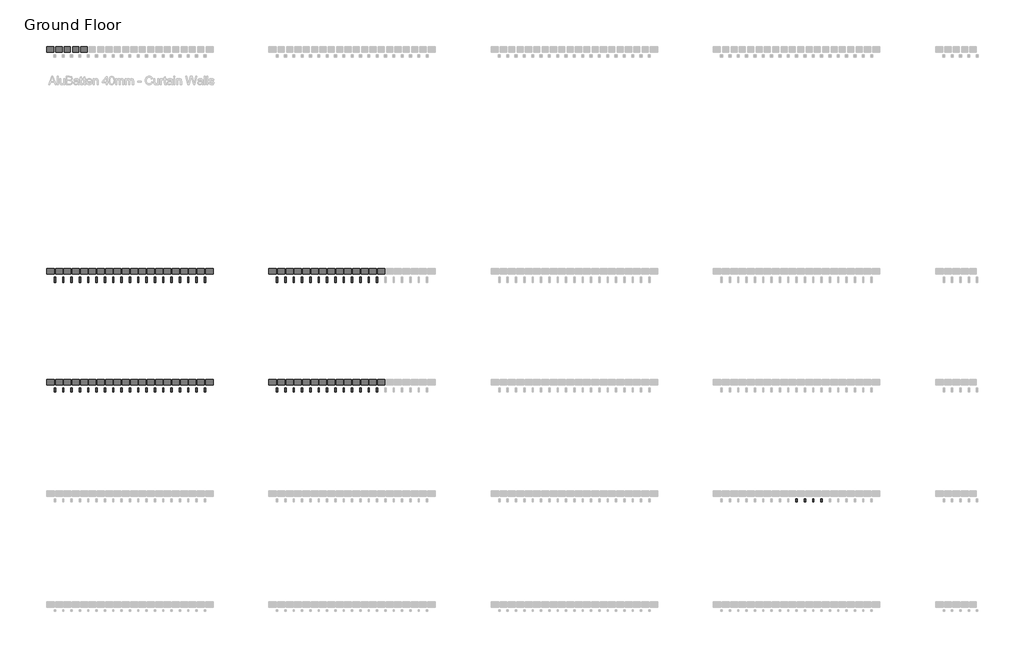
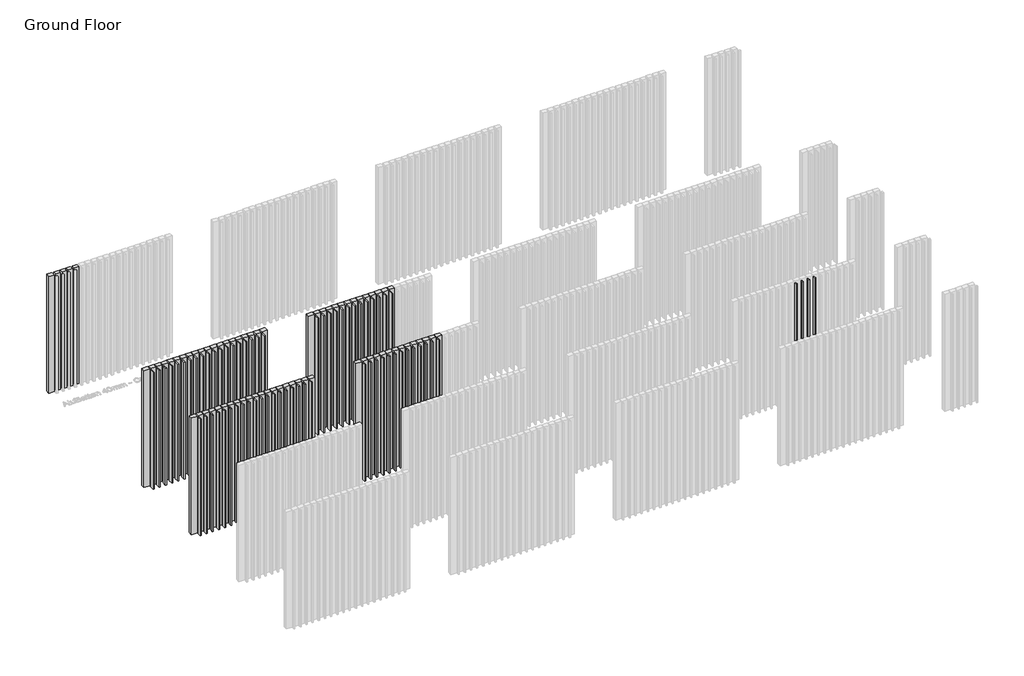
# One storey, part 3 of 350: 73 plates, 68 members.
"""IFC4 building model written with IfcOpenShell, lengths in millimetres."""

from ifc_helpers import new_model, si_unit, origin, place, context, project, spatial, transform, mapped, element, save
from components import rectangular_mullion_5535ef50, rectangular_mullion_b3f0cc74, rectangular_mullion_e8802490, empty_system_panel_empty_db8e642d, empty_system_panel_empty_1b6afc67, empty_system_panel_empty_4d48d162, empty_system_panel_empty_b664eb17, empty_system_panel_empty_6da6c4cd

model = new_model("IFC4")

# Units and contexts
model_context = context("Model", 3, world=origin())
ifc_project = project(units=[si_unit("LENGTHUNIT", "METRE", prefix="MILLI")], contexts=[model_context])

# Site, building, storey
site = spatial("IfcSite", under=ifc_project)
building = spatial("IfcBuilding", under=site)
storey = spatial("IfcBuildingStorey", under=building, Name="Ground Floor", Elevation=0.0)

# Members
placement = place(None, origin())
rectangular_mullion_shape = rectangular_mullion_5535ef50(model_context)
element("IfcMember", 1, ObjectType="Rectangular Mullion : Batten_Aluminium_Modinex_AluBatten_25x50_SpottedGum", at=placement, inside=storey, context=model_context, shape_type="MappedRepresentation", body=[
    mapped(rectangular_mullion_shape, transform((15416.4361642, 6968.2978302, 0.0), x_axis=(1.0, 0.0, 0.0), y_axis=(0.0, -1.0, 0.0), z_axis=(0.0, 0.0, -1.0))),
])
element("IfcMember", 2, ObjectType="Rectangular Mullion : Batten_Aluminium_Modinex_AluBatten_25x50_SpottedGum", at=placement, inside=storey, context=model_context, shape_type="MappedRepresentation", body=[
    mapped(rectangular_mullion_shape, transform((15566.4361642, 6968.2978302, 0.0), x_axis=(1.0, 0.0, 0.0), y_axis=(0.0, -1.0, 0.0), z_axis=(0.0, 0.0, -1.0))),
])
element("IfcMember", 3, ObjectType="Rectangular Mullion : Batten_Aluminium_Modinex_AluBatten_25x50_SpottedGum", at=placement, inside=storey, context=model_context, shape_type="MappedRepresentation", body=[
    mapped(rectangular_mullion_shape, transform((15716.4361642, 6968.2978302, 0.0), x_axis=(1.0, 0.0, 0.0), y_axis=(0.0, -1.0, 0.0), z_axis=(0.0, 0.0, -1.0))),
])
element("IfcMember", 4, ObjectType="Rectangular Mullion : Batten_Aluminium_Modinex_AluBatten_25x50_SpottedGum", at=placement, inside=storey, context=model_context, shape_type="MappedRepresentation", body=[
    mapped(rectangular_mullion_shape, transform((15866.4361642, 6968.2978302, 0.0), x_axis=(1.0, 0.0, 0.0), y_axis=(0.0, -1.0, 0.0), z_axis=(0.0, 0.0, -1.0))),
])
rectangular_mullion_2_shape = rectangular_mullion_b3f0cc74(model_context)
element("IfcMember", 5, ObjectType="Rectangular Mullion : Batten_Aluminium_Modinex_AluBatten_25x75_AfricanEbony", at=placement, inside=storey, context=model_context, shape_type="MappedRepresentation", body=[
    mapped(rectangular_mullion_2_shape, transform((2066.4361642, 8968.2978302, 0.0), x_axis=(1.0, 0.0, 0.0), y_axis=(0.0, -1.0, 0.0), z_axis=(0.0, 0.0, -1.0))),
])
element("IfcMember", 6, ObjectType="Rectangular Mullion : Batten_Aluminium_Modinex_AluBatten_25x75_AfricanEbony", at=placement, inside=storey, context=model_context, shape_type="MappedRepresentation", body=[
    mapped(rectangular_mullion_2_shape, transform((2216.4361642, 8968.2978302, 0.0), x_axis=(1.0, 0.0, 0.0), y_axis=(0.0, -1.0, 0.0), z_axis=(0.0, 0.0, -1.0))),
])
element("IfcMember", 7, ObjectType="Rectangular Mullion : Batten_Aluminium_Modinex_AluBatten_25x75_AfricanEbony", at=placement, inside=storey, context=model_context, shape_type="MappedRepresentation", body=[
    mapped(rectangular_mullion_2_shape, transform((2366.4361642, 8968.2978302, 0.0), x_axis=(1.0, 0.0, 0.0), y_axis=(0.0, -1.0, 0.0), z_axis=(0.0, 0.0, -1.0))),
])
element("IfcMember", 8, ObjectType="Rectangular Mullion : Batten_Aluminium_Modinex_AluBatten_25x75_AfricanEbony", at=placement, inside=storey, context=model_context, shape_type="MappedRepresentation", body=[
    mapped(rectangular_mullion_2_shape, transform((2516.4361642, 8968.2978302, 0.0), x_axis=(1.0, 0.0, 0.0), y_axis=(0.0, -1.0, 0.0), z_axis=(0.0, 0.0, -1.0))),
])
element("IfcMember", 9, ObjectType="Rectangular Mullion : Batten_Aluminium_Modinex_AluBatten_25x75_AfricanEbony", at=placement, inside=storey, context=model_context, shape_type="MappedRepresentation", body=[
    mapped(rectangular_mullion_2_shape, transform((2666.4361642, 8968.2978302, 0.0), x_axis=(1.0, 0.0, 0.0), y_axis=(0.0, -1.0, 0.0), z_axis=(0.0, 0.0, -1.0))),
])
element("IfcMember", 10, ObjectType="Rectangular Mullion : Batten_Aluminium_Modinex_AluBatten_25x75_AfricanEbony", at=placement, inside=storey, context=model_context, shape_type="MappedRepresentation", body=[
    mapped(rectangular_mullion_2_shape, transform((2816.4361642, 8968.2978302, 0.0), x_axis=(1.0, 0.0, 0.0), y_axis=(0.0, -1.0, 0.0), z_axis=(0.0, 0.0, -1.0))),
])
element("IfcMember", 11, ObjectType="Rectangular Mullion : Batten_Aluminium_Modinex_AluBatten_25x75_AfricanEbony", at=placement, inside=storey, context=model_context, shape_type="MappedRepresentation", body=[
    mapped(rectangular_mullion_2_shape, transform((2966.4361642, 8968.2978302, 0.0), x_axis=(1.0, 0.0, 0.0), y_axis=(0.0, -1.0, 0.0), z_axis=(0.0, 0.0, -1.0))),
])
element("IfcMember", 12, ObjectType="Rectangular Mullion : Batten_Aluminium_Modinex_AluBatten_25x75_AfricanEbony", at=placement, inside=storey, context=model_context, shape_type="MappedRepresentation", body=[
    mapped(rectangular_mullion_2_shape, transform((3116.4361642, 8968.2978302, 0.0), x_axis=(1.0, 0.0, 0.0), y_axis=(0.0, -1.0, 0.0), z_axis=(0.0, 0.0, -1.0))),
])
element("IfcMember", 13, ObjectType="Rectangular Mullion : Batten_Aluminium_Modinex_AluBatten_25x75_AfricanEbony", at=placement, inside=storey, context=model_context, shape_type="MappedRepresentation", body=[
    mapped(rectangular_mullion_2_shape, transform((3266.4361642, 8968.2978302, 0.0), x_axis=(1.0, 0.0, 0.0), y_axis=(0.0, -1.0, 0.0), z_axis=(0.0, 0.0, -1.0))),
])
element("IfcMember", 14, ObjectType="Rectangular Mullion : Batten_Aluminium_Modinex_AluBatten_25x75_AfricanEbony", at=placement, inside=storey, context=model_context, shape_type="MappedRepresentation", body=[
    mapped(rectangular_mullion_2_shape, transform((3416.4361642, 8968.2978302, 0.0), x_axis=(1.0, 0.0, 0.0), y_axis=(0.0, -1.0, 0.0), z_axis=(0.0, 0.0, -1.0))),
])
element("IfcMember", 15, ObjectType="Rectangular Mullion : Batten_Aluminium_Modinex_AluBatten_25x75_AfricanEbony", at=placement, inside=storey, context=model_context, shape_type="MappedRepresentation", body=[
    mapped(rectangular_mullion_2_shape, transform((3566.4361642, 8968.2978302, 0.0), x_axis=(1.0, 0.0, 0.0), y_axis=(0.0, -1.0, 0.0), z_axis=(0.0, 0.0, -1.0))),
])
element("IfcMember", 16, ObjectType="Rectangular Mullion : Batten_Aluminium_Modinex_AluBatten_25x75_AfricanEbony", at=placement, inside=storey, context=model_context, shape_type="MappedRepresentation", body=[
    mapped(rectangular_mullion_2_shape, transform((3716.4361642, 8968.2978302, 0.0), x_axis=(1.0, 0.0, 0.0), y_axis=(0.0, -1.0, 0.0), z_axis=(0.0, 0.0, -1.0))),
])
element("IfcMember", 17, ObjectType="Rectangular Mullion : Batten_Aluminium_Modinex_AluBatten_25x75_AfricanEbony", at=placement, inside=storey, context=model_context, shape_type="MappedRepresentation", body=[
    mapped(rectangular_mullion_2_shape, transform((3866.4361642, 8968.2978302, 0.0), x_axis=(1.0, 0.0, 0.0), y_axis=(0.0, -1.0, 0.0), z_axis=(0.0, 0.0, -1.0))),
])
element("IfcMember", 18, ObjectType="Rectangular Mullion : Batten_Aluminium_Modinex_AluBatten_25x75_AfricanEbony", at=placement, inside=storey, context=model_context, shape_type="MappedRepresentation", body=[
    mapped(rectangular_mullion_2_shape, transform((4016.4361642, 8968.2978302, 0.0), x_axis=(1.0, 0.0, 0.0), y_axis=(0.0, -1.0, 0.0), z_axis=(0.0, 0.0, -1.0))),
])
element("IfcMember", 19, ObjectType="Rectangular Mullion : Batten_Aluminium_Modinex_AluBatten_25x75_AfricanEbony", at=placement, inside=storey, context=model_context, shape_type="MappedRepresentation", body=[
    mapped(rectangular_mullion_2_shape, transform((4166.4361642, 8968.2978302, 0.0), x_axis=(1.0, 0.0, 0.0), y_axis=(0.0, -1.0, 0.0), z_axis=(0.0, 0.0, -1.0))),
])
element("IfcMember", 20, ObjectType="Rectangular Mullion : Batten_Aluminium_Modinex_AluBatten_25x75_AfricanEbony", at=placement, inside=storey, context=model_context, shape_type="MappedRepresentation", body=[
    mapped(rectangular_mullion_2_shape, transform((4316.4361642, 8968.2978302, 0.0), x_axis=(1.0, 0.0, 0.0), y_axis=(0.0, -1.0, 0.0), z_axis=(0.0, 0.0, -1.0))),
])
element("IfcMember", 21, ObjectType="Rectangular Mullion : Batten_Aluminium_Modinex_AluBatten_25x75_AfricanEbony", at=placement, inside=storey, context=model_context, shape_type="MappedRepresentation", body=[
    mapped(rectangular_mullion_2_shape, transform((4466.4361642, 8968.2978302, 0.0), x_axis=(1.0, 0.0, 0.0), y_axis=(0.0, -1.0, 0.0), z_axis=(0.0, 0.0, -1.0))),
])
element("IfcMember", 22, ObjectType="Rectangular Mullion : Batten_Aluminium_Modinex_AluBatten_25x75_AfricanEbony", at=placement, inside=storey, context=model_context, shape_type="MappedRepresentation", body=[
    mapped(rectangular_mullion_2_shape, transform((4616.4361642, 8968.2978302, 0.0), x_axis=(1.0, 0.0, 0.0), y_axis=(0.0, -1.0, 0.0), z_axis=(0.0, 0.0, -1.0))),
])
element("IfcMember", 23, ObjectType="Rectangular Mullion : Batten_Aluminium_Modinex_AluBatten_25x75_AfricanEbony", at=placement, inside=storey, context=model_context, shape_type="MappedRepresentation", body=[
    mapped(rectangular_mullion_2_shape, transform((4766.4361642, 8968.2978302, 0.0), x_axis=(1.0, 0.0, 0.0), y_axis=(0.0, -1.0, 0.0), z_axis=(0.0, 0.0, -1.0))),
])
element("IfcMember", 24, ObjectType="Rectangular Mullion : Batten_Aluminium_Modinex_AluBatten_25x75_Cedar", at=placement, inside=storey, context=model_context, shape_type="MappedRepresentation", body=[
    mapped(rectangular_mullion_2_shape, transform((6066.4361642, 8968.2978302, 0.0), x_axis=(1.0, 0.0, 0.0), y_axis=(0.0, -1.0, 0.0), z_axis=(0.0, 0.0, -1.0))),
])
element("IfcMember", 25, ObjectType="Rectangular Mullion : Batten_Aluminium_Modinex_AluBatten_25x75_Cedar", at=placement, inside=storey, context=model_context, shape_type="MappedRepresentation", body=[
    mapped(rectangular_mullion_2_shape, transform((6216.4361642, 8968.2978302, 0.0), x_axis=(1.0, 0.0, 0.0), y_axis=(0.0, -1.0, 0.0), z_axis=(0.0, 0.0, -1.0))),
])
element("IfcMember", 26, ObjectType="Rectangular Mullion : Batten_Aluminium_Modinex_AluBatten_25x75_Cedar", at=placement, inside=storey, context=model_context, shape_type="MappedRepresentation", body=[
    mapped(rectangular_mullion_2_shape, transform((6366.4361642, 8968.2978302, 0.0), x_axis=(1.0, 0.0, 0.0), y_axis=(0.0, -1.0, 0.0), z_axis=(0.0, 0.0, -1.0))),
])
element("IfcMember", 27, ObjectType="Rectangular Mullion : Batten_Aluminium_Modinex_AluBatten_25x75_Cedar", at=placement, inside=storey, context=model_context, shape_type="MappedRepresentation", body=[
    mapped(rectangular_mullion_2_shape, transform((6516.4361642, 8968.2978302, 0.0), x_axis=(1.0, 0.0, 0.0), y_axis=(0.0, -1.0, 0.0), z_axis=(0.0, 0.0, -1.0))),
])
element("IfcMember", 28, ObjectType="Rectangular Mullion : Batten_Aluminium_Modinex_AluBatten_25x75_Cedar", at=placement, inside=storey, context=model_context, shape_type="MappedRepresentation", body=[
    mapped(rectangular_mullion_2_shape, transform((6666.4361642, 8968.2978302, 0.0), x_axis=(1.0, 0.0, 0.0), y_axis=(0.0, -1.0, 0.0), z_axis=(0.0, 0.0, -1.0))),
])
element("IfcMember", 29, ObjectType="Rectangular Mullion : Batten_Aluminium_Modinex_AluBatten_25x75_Cedar", at=placement, inside=storey, context=model_context, shape_type="MappedRepresentation", body=[
    mapped(rectangular_mullion_2_shape, transform((6816.4361642, 8968.2978302, 0.0), x_axis=(1.0, 0.0, 0.0), y_axis=(0.0, -1.0, 0.0), z_axis=(0.0, 0.0, -1.0))),
])
element("IfcMember", 30, ObjectType="Rectangular Mullion : Batten_Aluminium_Modinex_AluBatten_25x75_Cedar", at=placement, inside=storey, context=model_context, shape_type="MappedRepresentation", body=[
    mapped(rectangular_mullion_2_shape, transform((6966.4361642, 8968.2978302, 0.0), x_axis=(1.0, 0.0, 0.0), y_axis=(0.0, -1.0, 0.0), z_axis=(0.0, 0.0, -1.0))),
])
element("IfcMember", 31, ObjectType="Rectangular Mullion : Batten_Aluminium_Modinex_AluBatten_25x75_Cedar", at=placement, inside=storey, context=model_context, shape_type="MappedRepresentation", body=[
    mapped(rectangular_mullion_2_shape, transform((7116.4361642, 8968.2978302, 0.0), x_axis=(1.0, 0.0, 0.0), y_axis=(0.0, -1.0, 0.0), z_axis=(0.0, 0.0, -1.0))),
])
element("IfcMember", 32, ObjectType="Rectangular Mullion : Batten_Aluminium_Modinex_AluBatten_25x75_Cedar", at=placement, inside=storey, context=model_context, shape_type="MappedRepresentation", body=[
    mapped(rectangular_mullion_2_shape, transform((7266.4361642, 8968.2978302, 0.0), x_axis=(1.0, 0.0, 0.0), y_axis=(0.0, -1.0, 0.0), z_axis=(0.0, 0.0, -1.0))),
])
element("IfcMember", 33, ObjectType="Rectangular Mullion : Batten_Aluminium_Modinex_AluBatten_25x75_Cedar", at=placement, inside=storey, context=model_context, shape_type="MappedRepresentation", body=[
    mapped(rectangular_mullion_2_shape, transform((7416.4361642, 8968.2978302, 0.0), x_axis=(1.0, 0.0, 0.0), y_axis=(0.0, -1.0, 0.0), z_axis=(0.0, 0.0, -1.0))),
])
element("IfcMember", 34, ObjectType="Rectangular Mullion : Batten_Aluminium_Modinex_AluBatten_25x75_Cedar", at=placement, inside=storey, context=model_context, shape_type="MappedRepresentation", body=[
    mapped(rectangular_mullion_2_shape, transform((7566.4361642, 8968.2978302, 0.0), x_axis=(1.0, 0.0, 0.0), y_axis=(0.0, -1.0, 0.0), z_axis=(0.0, 0.0, -1.0))),
])
element("IfcMember", 35, ObjectType="Rectangular Mullion : Batten_Aluminium_Modinex_AluBatten_25x75_Cedar", at=placement, inside=storey, context=model_context, shape_type="MappedRepresentation", body=[
    mapped(rectangular_mullion_2_shape, transform((7716.4361642, 8968.2978302, 0.0), x_axis=(1.0, 0.0, 0.0), y_axis=(0.0, -1.0, 0.0), z_axis=(0.0, 0.0, -1.0))),
])
element("IfcMember", 36, ObjectType="Rectangular Mullion : Batten_Aluminium_Modinex_AluBatten_25x75_Cedar", at=placement, inside=storey, context=model_context, shape_type="MappedRepresentation", body=[
    mapped(rectangular_mullion_2_shape, transform((7866.4361642, 8968.2978302, 0.0), x_axis=(1.0, 0.0, 0.0), y_axis=(0.0, -1.0, 0.0), z_axis=(0.0, 0.0, -1.0))),
])
rectangular_mullion_3_shape = rectangular_mullion_e8802490(model_context)
element("IfcMember", 37, ObjectType="Rectangular Mullion : Batten_Aluminium_Modinex_AluBatten_25x100_AfricanEbony", at=placement, inside=storey, context=model_context, shape_type="MappedRepresentation", body=[
    mapped(rectangular_mullion_3_shape, transform((2066.4361642, 10968.2978302, 0.0), x_axis=(1.0, 0.0, 0.0), y_axis=(0.0, -1.0, 0.0), z_axis=(0.0, 0.0, -1.0))),
])
element("IfcMember", 38, ObjectType="Rectangular Mullion : Batten_Aluminium_Modinex_AluBatten_25x100_AfricanEbony", at=placement, inside=storey, context=model_context, shape_type="MappedRepresentation", body=[
    mapped(rectangular_mullion_3_shape, transform((2216.4361642, 10968.2978302, 0.0), x_axis=(1.0, 0.0, 0.0), y_axis=(0.0, -1.0, 0.0), z_axis=(0.0, 0.0, -1.0))),
])
element("IfcMember", 39, ObjectType="Rectangular Mullion : Batten_Aluminium_Modinex_AluBatten_25x100_AfricanEbony", at=placement, inside=storey, context=model_context, shape_type="MappedRepresentation", body=[
    mapped(rectangular_mullion_3_shape, transform((2366.4361642, 10968.2978302, 0.0), x_axis=(1.0, 0.0, 0.0), y_axis=(0.0, -1.0, 0.0), z_axis=(0.0, 0.0, -1.0))),
])
element("IfcMember", 40, ObjectType="Rectangular Mullion : Batten_Aluminium_Modinex_AluBatten_25x100_AfricanEbony", at=placement, inside=storey, context=model_context, shape_type="MappedRepresentation", body=[
    mapped(rectangular_mullion_3_shape, transform((2516.4361642, 10968.2978302, 0.0), x_axis=(1.0, 0.0, 0.0), y_axis=(0.0, -1.0, 0.0), z_axis=(0.0, 0.0, -1.0))),
])
element("IfcMember", 41, ObjectType="Rectangular Mullion : Batten_Aluminium_Modinex_AluBatten_25x100_AfricanEbony", at=placement, inside=storey, context=model_context, shape_type="MappedRepresentation", body=[
    mapped(rectangular_mullion_3_shape, transform((2666.4361642, 10968.2978302, 0.0), x_axis=(1.0, 0.0, 0.0), y_axis=(0.0, -1.0, 0.0), z_axis=(0.0, 0.0, -1.0))),
])
element("IfcMember", 42, ObjectType="Rectangular Mullion : Batten_Aluminium_Modinex_AluBatten_25x100_AfricanEbony", at=placement, inside=storey, context=model_context, shape_type="MappedRepresentation", body=[
    mapped(rectangular_mullion_3_shape, transform((2816.4361642, 10968.2978302, 0.0), x_axis=(1.0, 0.0, 0.0), y_axis=(0.0, -1.0, 0.0), z_axis=(0.0, 0.0, -1.0))),
])
element("IfcMember", 43, ObjectType="Rectangular Mullion : Batten_Aluminium_Modinex_AluBatten_25x100_AfricanEbony", at=placement, inside=storey, context=model_context, shape_type="MappedRepresentation", body=[
    mapped(rectangular_mullion_3_shape, transform((2966.4361642, 10968.2978302, 0.0), x_axis=(1.0, 0.0, 0.0), y_axis=(0.0, -1.0, 0.0), z_axis=(0.0, 0.0, -1.0))),
])
element("IfcMember", 44, ObjectType="Rectangular Mullion : Batten_Aluminium_Modinex_AluBatten_25x100_AfricanEbony", at=placement, inside=storey, context=model_context, shape_type="MappedRepresentation", body=[
    mapped(rectangular_mullion_3_shape, transform((3116.4361642, 10968.2978302, 0.0), x_axis=(1.0, 0.0, 0.0), y_axis=(0.0, -1.0, 0.0), z_axis=(0.0, 0.0, -1.0))),
])
element("IfcMember", 45, ObjectType="Rectangular Mullion : Batten_Aluminium_Modinex_AluBatten_25x100_AfricanEbony", at=placement, inside=storey, context=model_context, shape_type="MappedRepresentation", body=[
    mapped(rectangular_mullion_3_shape, transform((3266.4361642, 10968.2978302, 0.0), x_axis=(1.0, 0.0, 0.0), y_axis=(0.0, -1.0, 0.0), z_axis=(0.0, 0.0, -1.0))),
])
element("IfcMember", 46, ObjectType="Rectangular Mullion : Batten_Aluminium_Modinex_AluBatten_25x100_AfricanEbony", at=placement, inside=storey, context=model_context, shape_type="MappedRepresentation", body=[
    mapped(rectangular_mullion_3_shape, transform((3416.4361642, 10968.2978302, 0.0), x_axis=(1.0, 0.0, 0.0), y_axis=(0.0, -1.0, 0.0), z_axis=(0.0, 0.0, -1.0))),
])
element("IfcMember", 47, ObjectType="Rectangular Mullion : Batten_Aluminium_Modinex_AluBatten_25x100_AfricanEbony", at=placement, inside=storey, context=model_context, shape_type="MappedRepresentation", body=[
    mapped(rectangular_mullion_3_shape, transform((3566.4361642, 10968.2978302, 0.0), x_axis=(1.0, 0.0, 0.0), y_axis=(0.0, -1.0, 0.0), z_axis=(0.0, 0.0, -1.0))),
])
element("IfcMember", 48, ObjectType="Rectangular Mullion : Batten_Aluminium_Modinex_AluBatten_25x100_AfricanEbony", at=placement, inside=storey, context=model_context, shape_type="MappedRepresentation", body=[
    mapped(rectangular_mullion_3_shape, transform((3716.4361642, 10968.2978302, 0.0), x_axis=(1.0, 0.0, 0.0), y_axis=(0.0, -1.0, 0.0), z_axis=(0.0, 0.0, -1.0))),
])
element("IfcMember", 49, ObjectType="Rectangular Mullion : Batten_Aluminium_Modinex_AluBatten_25x100_AfricanEbony", at=placement, inside=storey, context=model_context, shape_type="MappedRepresentation", body=[
    mapped(rectangular_mullion_3_shape, transform((3866.4361642, 10968.2978302, 0.0), x_axis=(1.0, 0.0, 0.0), y_axis=(0.0, -1.0, 0.0), z_axis=(0.0, 0.0, -1.0))),
])
element("IfcMember", 50, ObjectType="Rectangular Mullion : Batten_Aluminium_Modinex_AluBatten_25x100_AfricanEbony", at=placement, inside=storey, context=model_context, shape_type="MappedRepresentation", body=[
    mapped(rectangular_mullion_3_shape, transform((4016.4361642, 10968.2978302, 0.0), x_axis=(1.0, 0.0, 0.0), y_axis=(0.0, -1.0, 0.0), z_axis=(0.0, 0.0, -1.0))),
])
element("IfcMember", 51, ObjectType="Rectangular Mullion : Batten_Aluminium_Modinex_AluBatten_25x100_AfricanEbony", at=placement, inside=storey, context=model_context, shape_type="MappedRepresentation", body=[
    mapped(rectangular_mullion_3_shape, transform((4166.4361642, 10968.2978302, 0.0), x_axis=(1.0, 0.0, 0.0), y_axis=(0.0, -1.0, 0.0), z_axis=(0.0, 0.0, -1.0))),
])
element("IfcMember", 52, ObjectType="Rectangular Mullion : Batten_Aluminium_Modinex_AluBatten_25x100_AfricanEbony", at=placement, inside=storey, context=model_context, shape_type="MappedRepresentation", body=[
    mapped(rectangular_mullion_3_shape, transform((4316.4361642, 10968.2978302, 0.0), x_axis=(1.0, 0.0, 0.0), y_axis=(0.0, -1.0, 0.0), z_axis=(0.0, 0.0, -1.0))),
])
element("IfcMember", 53, ObjectType="Rectangular Mullion : Batten_Aluminium_Modinex_AluBatten_25x100_AfricanEbony", at=placement, inside=storey, context=model_context, shape_type="MappedRepresentation", body=[
    mapped(rectangular_mullion_3_shape, transform((4466.4361642, 10968.2978302, 0.0), x_axis=(1.0, 0.0, 0.0), y_axis=(0.0, -1.0, 0.0), z_axis=(0.0, 0.0, -1.0))),
])
element("IfcMember", 54, ObjectType="Rectangular Mullion : Batten_Aluminium_Modinex_AluBatten_25x100_AfricanEbony", at=placement, inside=storey, context=model_context, shape_type="MappedRepresentation", body=[
    mapped(rectangular_mullion_3_shape, transform((4616.4361642, 10968.2978302, 0.0), x_axis=(1.0, 0.0, 0.0), y_axis=(0.0, -1.0, 0.0), z_axis=(0.0, 0.0, -1.0))),
])
element("IfcMember", 55, ObjectType="Rectangular Mullion : Batten_Aluminium_Modinex_AluBatten_25x100_AfricanEbony", at=placement, inside=storey, context=model_context, shape_type="MappedRepresentation", body=[
    mapped(rectangular_mullion_3_shape, transform((4766.4361642, 10968.2978302, 0.0), x_axis=(1.0, 0.0, 0.0), y_axis=(0.0, -1.0, 0.0), z_axis=(0.0, 0.0, -1.0))),
])
element("IfcMember", 56, ObjectType="Rectangular Mullion : Batten_Aluminium_Modinex_AluBatten_25x100_Cedar", at=placement, inside=storey, context=model_context, shape_type="MappedRepresentation", body=[
    mapped(rectangular_mullion_3_shape, transform((6066.4361642, 10968.2978302, 0.0), x_axis=(1.0, 0.0, 0.0), y_axis=(0.0, -1.0, 0.0), z_axis=(0.0, 0.0, -1.0))),
])
element("IfcMember", 57, ObjectType="Rectangular Mullion : Batten_Aluminium_Modinex_AluBatten_25x100_Cedar", at=placement, inside=storey, context=model_context, shape_type="MappedRepresentation", body=[
    mapped(rectangular_mullion_3_shape, transform((6216.4361642, 10968.2978302, 0.0), x_axis=(1.0, 0.0, 0.0), y_axis=(0.0, -1.0, 0.0), z_axis=(0.0, 0.0, -1.0))),
])
element("IfcMember", 58, ObjectType="Rectangular Mullion : Batten_Aluminium_Modinex_AluBatten_25x100_Cedar", at=placement, inside=storey, context=model_context, shape_type="MappedRepresentation", body=[
    mapped(rectangular_mullion_3_shape, transform((6366.4361642, 10968.2978302, 0.0), x_axis=(1.0, 0.0, 0.0), y_axis=(0.0, -1.0, 0.0), z_axis=(0.0, 0.0, -1.0))),
])
element("IfcMember", 59, ObjectType="Rectangular Mullion : Batten_Aluminium_Modinex_AluBatten_25x100_Cedar", at=placement, inside=storey, context=model_context, shape_type="MappedRepresentation", body=[
    mapped(rectangular_mullion_3_shape, transform((6516.4361642, 10968.2978302, 0.0), x_axis=(1.0, 0.0, 0.0), y_axis=(0.0, -1.0, 0.0), z_axis=(0.0, 0.0, -1.0))),
])
element("IfcMember", 60, ObjectType="Rectangular Mullion : Batten_Aluminium_Modinex_AluBatten_25x100_Cedar", at=placement, inside=storey, context=model_context, shape_type="MappedRepresentation", body=[
    mapped(rectangular_mullion_3_shape, transform((6666.4361642, 10968.2978302, 0.0), x_axis=(1.0, 0.0, 0.0), y_axis=(0.0, -1.0, 0.0), z_axis=(0.0, 0.0, -1.0))),
])
element("IfcMember", 61, ObjectType="Rectangular Mullion : Batten_Aluminium_Modinex_AluBatten_25x100_Cedar", at=placement, inside=storey, context=model_context, shape_type="MappedRepresentation", body=[
    mapped(rectangular_mullion_3_shape, transform((6816.4361642, 10968.2978302, 0.0), x_axis=(1.0, 0.0, 0.0), y_axis=(0.0, -1.0, 0.0), z_axis=(0.0, 0.0, -1.0))),
])
element("IfcMember", 62, ObjectType="Rectangular Mullion : Batten_Aluminium_Modinex_AluBatten_25x100_Cedar", at=placement, inside=storey, context=model_context, shape_type="MappedRepresentation", body=[
    mapped(rectangular_mullion_3_shape, transform((6966.4361642, 10968.2978302, 0.0), x_axis=(1.0, 0.0, 0.0), y_axis=(0.0, -1.0, 0.0), z_axis=(0.0, 0.0, -1.0))),
])
element("IfcMember", 63, ObjectType="Rectangular Mullion : Batten_Aluminium_Modinex_AluBatten_25x100_Cedar", at=placement, inside=storey, context=model_context, shape_type="MappedRepresentation", body=[
    mapped(rectangular_mullion_3_shape, transform((7116.4361642, 10968.2978302, 0.0), x_axis=(1.0, 0.0, 0.0), y_axis=(0.0, -1.0, 0.0), z_axis=(0.0, 0.0, -1.0))),
])
element("IfcMember", 64, ObjectType="Rectangular Mullion : Batten_Aluminium_Modinex_AluBatten_25x100_Cedar", at=placement, inside=storey, context=model_context, shape_type="MappedRepresentation", body=[
    mapped(rectangular_mullion_3_shape, transform((7266.4361642, 10968.2978302, 0.0), x_axis=(1.0, 0.0, 0.0), y_axis=(0.0, -1.0, 0.0), z_axis=(0.0, 0.0, -1.0))),
])
element("IfcMember", 65, ObjectType="Rectangular Mullion : Batten_Aluminium_Modinex_AluBatten_25x100_Cedar", at=placement, inside=storey, context=model_context, shape_type="MappedRepresentation", body=[
    mapped(rectangular_mullion_3_shape, transform((7416.4361642, 10968.2978302, 0.0), x_axis=(1.0, 0.0, 0.0), y_axis=(0.0, -1.0, 0.0), z_axis=(0.0, 0.0, -1.0))),
])
element("IfcMember", 66, ObjectType="Rectangular Mullion : Batten_Aluminium_Modinex_AluBatten_25x100_Cedar", at=placement, inside=storey, context=model_context, shape_type="MappedRepresentation", body=[
    mapped(rectangular_mullion_3_shape, transform((7566.4361642, 10968.2978302, 0.0), x_axis=(1.0, 0.0, 0.0), y_axis=(0.0, -1.0, 0.0), z_axis=(0.0, 0.0, -1.0))),
])
element("IfcMember", 67, ObjectType="Rectangular Mullion : Batten_Aluminium_Modinex_AluBatten_25x100_Cedar", at=placement, inside=storey, context=model_context, shape_type="MappedRepresentation", body=[
    mapped(rectangular_mullion_3_shape, transform((7716.4361642, 10968.2978302, 0.0), x_axis=(1.0, 0.0, 0.0), y_axis=(0.0, -1.0, 0.0), z_axis=(0.0, 0.0, -1.0))),
])
element("IfcMember", 68, ObjectType="Rectangular Mullion : Batten_Aluminium_Modinex_AluBatten_25x100_Cedar", at=placement, inside=storey, context=model_context, shape_type="MappedRepresentation", body=[
    mapped(rectangular_mullion_3_shape, transform((7866.4361642, 10968.2978302, 0.0), x_axis=(1.0, 0.0, 0.0), y_axis=(0.0, -1.0, 0.0), z_axis=(0.0, 0.0, -1.0))),
])

# Plates
empty_system_panel_empty_shape = empty_system_panel_empty_db8e642d(model_context)
element("IfcPlate", 69, ObjectType="Empty System Panel : Empty", at=placement, inside=storey, context=model_context, shape_type="MappedRepresentation", body=[
    mapped(empty_system_panel_empty_shape, transform((1985.1861641, 8968.2978302, 0.0), x_axis=(1.0, 0.0, 0.0), y_axis=(0.0, 1.0, 0.0), z_axis=(0.0, 0.0, 1.0))),
])
element("IfcPlate", 70, ObjectType="Empty System Panel : Empty", at=placement, inside=storey, context=model_context, shape_type="MappedRepresentation", body=[
    mapped(empty_system_panel_empty_shape, transform((5985.1861641, 8968.2978302, 0.0), x_axis=(1.0, 0.0, 0.0), y_axis=(0.0, 1.0, 0.0), z_axis=(0.0, 0.0, 1.0))),
])
element("IfcPlate", 71, ObjectType="Empty System Panel : Empty", at=placement, inside=storey, context=model_context, shape_type="MappedRepresentation", body=[
    mapped(empty_system_panel_empty_shape, transform((1985.1861641, 10968.2978302, 0.0), x_axis=(1.0, 0.0, 0.0), y_axis=(0.0, 1.0, 0.0), z_axis=(0.0, 0.0, 1.0))),
])
element("IfcPlate", 72, ObjectType="Empty System Panel : Empty", at=placement, inside=storey, context=model_context, shape_type="MappedRepresentation", body=[
    mapped(empty_system_panel_empty_shape, transform((5985.1861641, 10968.2978302, 0.0), x_axis=(1.0, 0.0, 0.0), y_axis=(0.0, 1.0, 0.0), z_axis=(0.0, 0.0, 1.0))),
])
empty_system_panel_empty_2_shape = empty_system_panel_empty_1b6afc67(model_context)
element("IfcPlate", 73, ObjectType="Empty System Panel : Empty", at=placement, inside=storey, context=model_context, shape_type="MappedRepresentation", body=[
    mapped(empty_system_panel_empty_2_shape, transform((2141.4361642, 8968.2978302, 0.0), x_axis=(1.0, 0.0, 0.0), y_axis=(0.0, 1.0, 0.0), z_axis=(0.0, 0.0, 1.0))),
])
element("IfcPlate", 74, ObjectType="Empty System Panel : Empty", at=placement, inside=storey, context=model_context, shape_type="MappedRepresentation", body=[
    mapped(empty_system_panel_empty_2_shape, transform((2291.4361642, 8968.2978302, 0.0), x_axis=(1.0, 0.0, 0.0), y_axis=(0.0, 1.0, 0.0), z_axis=(0.0, 0.0, 1.0))),
])
element("IfcPlate", 75, ObjectType="Empty System Panel : Empty", at=placement, inside=storey, context=model_context, shape_type="MappedRepresentation", body=[
    mapped(empty_system_panel_empty_2_shape, transform((2441.4361642, 8968.2978302, 0.0), x_axis=(1.0, 0.0, 0.0), y_axis=(0.0, 1.0, 0.0), z_axis=(0.0, 0.0, 1.0))),
])
element("IfcPlate", 76, ObjectType="Empty System Panel : Empty", at=placement, inside=storey, context=model_context, shape_type="MappedRepresentation", body=[
    mapped(empty_system_panel_empty_2_shape, transform((2591.4361642, 8968.2978302, 0.0), x_axis=(1.0, 0.0, 0.0), y_axis=(0.0, 1.0, 0.0), z_axis=(0.0, 0.0, 1.0))),
])
element("IfcPlate", 77, ObjectType="Empty System Panel : Empty", at=placement, inside=storey, context=model_context, shape_type="MappedRepresentation", body=[
    mapped(empty_system_panel_empty_2_shape, transform((2741.4361642, 8968.2978302, 0.0), x_axis=(1.0, 0.0, 0.0), y_axis=(0.0, 1.0, 0.0), z_axis=(0.0, 0.0, 1.0))),
])
element("IfcPlate", 78, ObjectType="Empty System Panel : Empty", at=placement, inside=storey, context=model_context, shape_type="MappedRepresentation", body=[
    mapped(empty_system_panel_empty_2_shape, transform((2891.4361642, 8968.2978302, 0.0), x_axis=(1.0, 0.0, 0.0), y_axis=(0.0, 1.0, 0.0), z_axis=(0.0, 0.0, 1.0))),
])
element("IfcPlate", 79, ObjectType="Empty System Panel : Empty", at=placement, inside=storey, context=model_context, shape_type="MappedRepresentation", body=[
    mapped(empty_system_panel_empty_2_shape, transform((3041.4361642, 8968.2978302, 0.0), x_axis=(1.0, 0.0, 0.0), y_axis=(0.0, 1.0, 0.0), z_axis=(0.0, 0.0, 1.0))),
])
element("IfcPlate", 80, ObjectType="Empty System Panel : Empty", at=placement, inside=storey, context=model_context, shape_type="MappedRepresentation", body=[
    mapped(empty_system_panel_empty_2_shape, transform((3191.4361642, 8968.2978302, 0.0), x_axis=(1.0, 0.0, 0.0), y_axis=(0.0, 1.0, 0.0), z_axis=(0.0, 0.0, 1.0))),
])
element("IfcPlate", 81, ObjectType="Empty System Panel : Empty", at=placement, inside=storey, context=model_context, shape_type="MappedRepresentation", body=[
    mapped(empty_system_panel_empty_2_shape, transform((3341.4361642, 8968.2978302, 0.0), x_axis=(1.0, 0.0, 0.0), y_axis=(0.0, 1.0, 0.0), z_axis=(0.0, 0.0, 1.0))),
])
element("IfcPlate", 82, ObjectType="Empty System Panel : Empty", at=placement, inside=storey, context=model_context, shape_type="MappedRepresentation", body=[
    mapped(empty_system_panel_empty_2_shape, transform((3491.4361642, 8968.2978302, 0.0), x_axis=(1.0, 0.0, 0.0), y_axis=(0.0, 1.0, 0.0), z_axis=(0.0, 0.0, 1.0))),
])
element("IfcPlate", 83, ObjectType="Empty System Panel : Empty", at=placement, inside=storey, context=model_context, shape_type="MappedRepresentation", body=[
    mapped(empty_system_panel_empty_2_shape, transform((3641.4361642, 8968.2978302, 0.0), x_axis=(1.0, 0.0, 0.0), y_axis=(0.0, 1.0, 0.0), z_axis=(0.0, 0.0, 1.0))),
])
element("IfcPlate", 84, ObjectType="Empty System Panel : Empty", at=placement, inside=storey, context=model_context, shape_type="MappedRepresentation", body=[
    mapped(empty_system_panel_empty_2_shape, transform((3791.4361642, 8968.2978302, 0.0), x_axis=(1.0, 0.0, 0.0), y_axis=(0.0, 1.0, 0.0), z_axis=(0.0, 0.0, 1.0))),
])
element("IfcPlate", 85, ObjectType="Empty System Panel : Empty", at=placement, inside=storey, context=model_context, shape_type="MappedRepresentation", body=[
    mapped(empty_system_panel_empty_2_shape, transform((3941.4361642, 8968.2978302, 0.0), x_axis=(1.0, 0.0, 0.0), y_axis=(0.0, 1.0, 0.0), z_axis=(0.0, 0.0, 1.0))),
])
element("IfcPlate", 86, ObjectType="Empty System Panel : Empty", at=placement, inside=storey, context=model_context, shape_type="MappedRepresentation", body=[
    mapped(empty_system_panel_empty_2_shape, transform((4091.4361642, 8968.2978302, 0.0), x_axis=(1.0, 0.0, 0.0), y_axis=(0.0, 1.0, 0.0), z_axis=(0.0, 0.0, 1.0))),
])
element("IfcPlate", 87, ObjectType="Empty System Panel : Empty", at=placement, inside=storey, context=model_context, shape_type="MappedRepresentation", body=[
    mapped(empty_system_panel_empty_2_shape, transform((4241.4361642, 8968.2978302, 0.0), x_axis=(1.0, 0.0, 0.0), y_axis=(0.0, 1.0, 0.0), z_axis=(0.0, 0.0, 1.0))),
])
element("IfcPlate", 88, ObjectType="Empty System Panel : Empty", at=placement, inside=storey, context=model_context, shape_type="MappedRepresentation", body=[
    mapped(empty_system_panel_empty_2_shape, transform((4391.4361642, 8968.2978302, 0.0), x_axis=(1.0, 0.0, 0.0), y_axis=(0.0, 1.0, 0.0), z_axis=(0.0, 0.0, 1.0))),
])
element("IfcPlate", 89, ObjectType="Empty System Panel : Empty", at=placement, inside=storey, context=model_context, shape_type="MappedRepresentation", body=[
    mapped(empty_system_panel_empty_2_shape, transform((4541.4361642, 8968.2978302, 0.0), x_axis=(1.0, 0.0, 0.0), y_axis=(0.0, 1.0, 0.0), z_axis=(0.0, 0.0, 1.0))),
])
element("IfcPlate", 90, ObjectType="Empty System Panel : Empty", at=placement, inside=storey, context=model_context, shape_type="MappedRepresentation", body=[
    mapped(empty_system_panel_empty_2_shape, transform((4691.4361642, 8968.2978302, 0.0), x_axis=(1.0, 0.0, 0.0), y_axis=(0.0, 1.0, 0.0), z_axis=(0.0, 0.0, 1.0))),
])
element("IfcPlate", 91, ObjectType="Empty System Panel : Empty", at=placement, inside=storey, context=model_context, shape_type="MappedRepresentation", body=[
    mapped(empty_system_panel_empty_2_shape, transform((6141.4361642, 8968.2978302, 0.0), x_axis=(1.0, 0.0, 0.0), y_axis=(0.0, 1.0, 0.0), z_axis=(0.0, 0.0, 1.0))),
])
element("IfcPlate", 92, ObjectType="Empty System Panel : Empty", at=placement, inside=storey, context=model_context, shape_type="MappedRepresentation", body=[
    mapped(empty_system_panel_empty_2_shape, transform((6291.4361642, 8968.2978302, 0.0), x_axis=(1.0, 0.0, 0.0), y_axis=(0.0, 1.0, 0.0), z_axis=(0.0, 0.0, 1.0))),
])
element("IfcPlate", 93, ObjectType="Empty System Panel : Empty", at=placement, inside=storey, context=model_context, shape_type="MappedRepresentation", body=[
    mapped(empty_system_panel_empty_2_shape, transform((6441.4361642, 8968.2978302, 0.0), x_axis=(1.0, 0.0, 0.0), y_axis=(0.0, 1.0, 0.0), z_axis=(0.0, 0.0, 1.0))),
])
element("IfcPlate", 94, ObjectType="Empty System Panel : Empty", at=placement, inside=storey, context=model_context, shape_type="MappedRepresentation", body=[
    mapped(empty_system_panel_empty_2_shape, transform((6591.4361642, 8968.2978302, 0.0), x_axis=(1.0, 0.0, 0.0), y_axis=(0.0, 1.0, 0.0), z_axis=(0.0, 0.0, 1.0))),
])
element("IfcPlate", 95, ObjectType="Empty System Panel : Empty", at=placement, inside=storey, context=model_context, shape_type="MappedRepresentation", body=[
    mapped(empty_system_panel_empty_2_shape, transform((6741.4361642, 8968.2978302, 0.0), x_axis=(1.0, 0.0, 0.0), y_axis=(0.0, 1.0, 0.0), z_axis=(0.0, 0.0, 1.0))),
])
element("IfcPlate", 96, ObjectType="Empty System Panel : Empty", at=placement, inside=storey, context=model_context, shape_type="MappedRepresentation", body=[
    mapped(empty_system_panel_empty_2_shape, transform((6891.4361642, 8968.2978302, 0.0), x_axis=(1.0, 0.0, 0.0), y_axis=(0.0, 1.0, 0.0), z_axis=(0.0, 0.0, 1.0))),
])
element("IfcPlate", 97, ObjectType="Empty System Panel : Empty", at=placement, inside=storey, context=model_context, shape_type="MappedRepresentation", body=[
    mapped(empty_system_panel_empty_2_shape, transform((7041.4361642, 8968.2978302, 0.0), x_axis=(1.0, 0.0, 0.0), y_axis=(0.0, 1.0, 0.0), z_axis=(0.0, 0.0, 1.0))),
])
element("IfcPlate", 98, ObjectType="Empty System Panel : Empty", at=placement, inside=storey, context=model_context, shape_type="MappedRepresentation", body=[
    mapped(empty_system_panel_empty_2_shape, transform((7191.4361642, 8968.2978302, 0.0), x_axis=(1.0, 0.0, 0.0), y_axis=(0.0, 1.0, 0.0), z_axis=(0.0, 0.0, 1.0))),
])
element("IfcPlate", 99, ObjectType="Empty System Panel : Empty", at=placement, inside=storey, context=model_context, shape_type="MappedRepresentation", body=[
    mapped(empty_system_panel_empty_2_shape, transform((7341.4361642, 8968.2978302, 0.0), x_axis=(1.0, 0.0, 0.0), y_axis=(0.0, 1.0, 0.0), z_axis=(0.0, 0.0, 1.0))),
])
element("IfcPlate", 100, ObjectType="Empty System Panel : Empty", at=placement, inside=storey, context=model_context, shape_type="MappedRepresentation", body=[
    mapped(empty_system_panel_empty_2_shape, transform((7491.4361642, 8968.2978302, 0.0), x_axis=(1.0, 0.0, 0.0), y_axis=(0.0, 1.0, 0.0), z_axis=(0.0, 0.0, 1.0))),
])
element("IfcPlate", 101, ObjectType="Empty System Panel : Empty", at=placement, inside=storey, context=model_context, shape_type="MappedRepresentation", body=[
    mapped(empty_system_panel_empty_2_shape, transform((7641.4361642, 8968.2978302, 0.0), x_axis=(1.0, 0.0, 0.0), y_axis=(0.0, 1.0, 0.0), z_axis=(0.0, 0.0, 1.0))),
])
element("IfcPlate", 102, ObjectType="Empty System Panel : Empty", at=placement, inside=storey, context=model_context, shape_type="MappedRepresentation", body=[
    mapped(empty_system_panel_empty_2_shape, transform((7791.4361642, 8968.2978302, 0.0), x_axis=(1.0, 0.0, 0.0), y_axis=(0.0, 1.0, 0.0), z_axis=(0.0, 0.0, 1.0))),
])
element("IfcPlate", 103, ObjectType="Empty System Panel : Empty", at=placement, inside=storey, context=model_context, shape_type="MappedRepresentation", body=[
    mapped(empty_system_panel_empty_2_shape, transform((7941.4361642, 8968.2978302, 0.0), x_axis=(1.0, 0.0, 0.0), y_axis=(0.0, 1.0, 0.0), z_axis=(0.0, 0.0, 1.0))),
])
element("IfcPlate", 104, ObjectType="Empty System Panel : Empty", at=placement, inside=storey, context=model_context, shape_type="MappedRepresentation", body=[
    mapped(empty_system_panel_empty_2_shape, transform((2141.4361642, 10968.2978302, 0.0), x_axis=(1.0, 0.0, 0.0), y_axis=(0.0, 1.0, 0.0), z_axis=(0.0, 0.0, 1.0))),
])
element("IfcPlate", 105, ObjectType="Empty System Panel : Empty", at=placement, inside=storey, context=model_context, shape_type="MappedRepresentation", body=[
    mapped(empty_system_panel_empty_2_shape, transform((2291.4361642, 10968.2978302, 0.0), x_axis=(1.0, 0.0, 0.0), y_axis=(0.0, 1.0, 0.0), z_axis=(0.0, 0.0, 1.0))),
])
element("IfcPlate", 106, ObjectType="Empty System Panel : Empty", at=placement, inside=storey, context=model_context, shape_type="MappedRepresentation", body=[
    mapped(empty_system_panel_empty_2_shape, transform((2441.4361642, 10968.2978302, 0.0), x_axis=(1.0, 0.0, 0.0), y_axis=(0.0, 1.0, 0.0), z_axis=(0.0, 0.0, 1.0))),
])
element("IfcPlate", 107, ObjectType="Empty System Panel : Empty", at=placement, inside=storey, context=model_context, shape_type="MappedRepresentation", body=[
    mapped(empty_system_panel_empty_2_shape, transform((2591.4361642, 10968.2978302, 0.0), x_axis=(1.0, 0.0, 0.0), y_axis=(0.0, 1.0, 0.0), z_axis=(0.0, 0.0, 1.0))),
])
element("IfcPlate", 108, ObjectType="Empty System Panel : Empty", at=placement, inside=storey, context=model_context, shape_type="MappedRepresentation", body=[
    mapped(empty_system_panel_empty_2_shape, transform((2741.4361642, 10968.2978302, 0.0), x_axis=(1.0, 0.0, 0.0), y_axis=(0.0, 1.0, 0.0), z_axis=(0.0, 0.0, 1.0))),
])
element("IfcPlate", 109, ObjectType="Empty System Panel : Empty", at=placement, inside=storey, context=model_context, shape_type="MappedRepresentation", body=[
    mapped(empty_system_panel_empty_2_shape, transform((2891.4361642, 10968.2978302, 0.0), x_axis=(1.0, 0.0, 0.0), y_axis=(0.0, 1.0, 0.0), z_axis=(0.0, 0.0, 1.0))),
])
element("IfcPlate", 110, ObjectType="Empty System Panel : Empty", at=placement, inside=storey, context=model_context, shape_type="MappedRepresentation", body=[
    mapped(empty_system_panel_empty_2_shape, transform((3041.4361642, 10968.2978302, 0.0), x_axis=(1.0, 0.0, 0.0), y_axis=(0.0, 1.0, 0.0), z_axis=(0.0, 0.0, 1.0))),
])
element("IfcPlate", 111, ObjectType="Empty System Panel : Empty", at=placement, inside=storey, context=model_context, shape_type="MappedRepresentation", body=[
    mapped(empty_system_panel_empty_2_shape, transform((3191.4361642, 10968.2978302, 0.0), x_axis=(1.0, 0.0, 0.0), y_axis=(0.0, 1.0, 0.0), z_axis=(0.0, 0.0, 1.0))),
])
element("IfcPlate", 112, ObjectType="Empty System Panel : Empty", at=placement, inside=storey, context=model_context, shape_type="MappedRepresentation", body=[
    mapped(empty_system_panel_empty_2_shape, transform((3341.4361642, 10968.2978302, 0.0), x_axis=(1.0, 0.0, 0.0), y_axis=(0.0, 1.0, 0.0), z_axis=(0.0, 0.0, 1.0))),
])
element("IfcPlate", 113, ObjectType="Empty System Panel : Empty", at=placement, inside=storey, context=model_context, shape_type="MappedRepresentation", body=[
    mapped(empty_system_panel_empty_2_shape, transform((3491.4361642, 10968.2978302, 0.0), x_axis=(1.0, 0.0, 0.0), y_axis=(0.0, 1.0, 0.0), z_axis=(0.0, 0.0, 1.0))),
])
element("IfcPlate", 114, ObjectType="Empty System Panel : Empty", at=placement, inside=storey, context=model_context, shape_type="MappedRepresentation", body=[
    mapped(empty_system_panel_empty_2_shape, transform((3641.4361642, 10968.2978302, 0.0), x_axis=(1.0, 0.0, 0.0), y_axis=(0.0, 1.0, 0.0), z_axis=(0.0, 0.0, 1.0))),
])
element("IfcPlate", 115, ObjectType="Empty System Panel : Empty", at=placement, inside=storey, context=model_context, shape_type="MappedRepresentation", body=[
    mapped(empty_system_panel_empty_2_shape, transform((3791.4361642, 10968.2978302, 0.0), x_axis=(1.0, 0.0, 0.0), y_axis=(0.0, 1.0, 0.0), z_axis=(0.0, 0.0, 1.0))),
])
element("IfcPlate", 116, ObjectType="Empty System Panel : Empty", at=placement, inside=storey, context=model_context, shape_type="MappedRepresentation", body=[
    mapped(empty_system_panel_empty_2_shape, transform((3941.4361642, 10968.2978302, 0.0), x_axis=(1.0, 0.0, 0.0), y_axis=(0.0, 1.0, 0.0), z_axis=(0.0, 0.0, 1.0))),
])
element("IfcPlate", 117, ObjectType="Empty System Panel : Empty", at=placement, inside=storey, context=model_context, shape_type="MappedRepresentation", body=[
    mapped(empty_system_panel_empty_2_shape, transform((4091.4361642, 10968.2978302, 0.0), x_axis=(1.0, 0.0, 0.0), y_axis=(0.0, 1.0, 0.0), z_axis=(0.0, 0.0, 1.0))),
])
element("IfcPlate", 118, ObjectType="Empty System Panel : Empty", at=placement, inside=storey, context=model_context, shape_type="MappedRepresentation", body=[
    mapped(empty_system_panel_empty_2_shape, transform((4241.4361642, 10968.2978302, 0.0), x_axis=(1.0, 0.0, 0.0), y_axis=(0.0, 1.0, 0.0), z_axis=(0.0, 0.0, 1.0))),
])
element("IfcPlate", 119, ObjectType="Empty System Panel : Empty", at=placement, inside=storey, context=model_context, shape_type="MappedRepresentation", body=[
    mapped(empty_system_panel_empty_2_shape, transform((4391.4361642, 10968.2978302, 0.0), x_axis=(1.0, 0.0, 0.0), y_axis=(0.0, 1.0, 0.0), z_axis=(0.0, 0.0, 1.0))),
])
element("IfcPlate", 120, ObjectType="Empty System Panel : Empty", at=placement, inside=storey, context=model_context, shape_type="MappedRepresentation", body=[
    mapped(empty_system_panel_empty_2_shape, transform((4541.4361642, 10968.2978302, 0.0), x_axis=(1.0, 0.0, 0.0), y_axis=(0.0, 1.0, 0.0), z_axis=(0.0, 0.0, 1.0))),
])
element("IfcPlate", 121, ObjectType="Empty System Panel : Empty", at=placement, inside=storey, context=model_context, shape_type="MappedRepresentation", body=[
    mapped(empty_system_panel_empty_2_shape, transform((4691.4361642, 10968.2978302, 0.0), x_axis=(1.0, 0.0, 0.0), y_axis=(0.0, 1.0, 0.0), z_axis=(0.0, 0.0, 1.0))),
])
element("IfcPlate", 122, ObjectType="Empty System Panel : Empty", at=placement, inside=storey, context=model_context, shape_type="MappedRepresentation", body=[
    mapped(empty_system_panel_empty_2_shape, transform((6141.4361642, 10968.2978302, 0.0), x_axis=(1.0, 0.0, 0.0), y_axis=(0.0, 1.0, 0.0), z_axis=(0.0, 0.0, 1.0))),
])
element("IfcPlate", 123, ObjectType="Empty System Panel : Empty", at=placement, inside=storey, context=model_context, shape_type="MappedRepresentation", body=[
    mapped(empty_system_panel_empty_2_shape, transform((6291.4361642, 10968.2978302, 0.0), x_axis=(1.0, 0.0, 0.0), y_axis=(0.0, 1.0, 0.0), z_axis=(0.0, 0.0, 1.0))),
])
element("IfcPlate", 124, ObjectType="Empty System Panel : Empty", at=placement, inside=storey, context=model_context, shape_type="MappedRepresentation", body=[
    mapped(empty_system_panel_empty_2_shape, transform((6441.4361642, 10968.2978302, 0.0), x_axis=(1.0, 0.0, 0.0), y_axis=(0.0, 1.0, 0.0), z_axis=(0.0, 0.0, 1.0))),
])
element("IfcPlate", 125, ObjectType="Empty System Panel : Empty", at=placement, inside=storey, context=model_context, shape_type="MappedRepresentation", body=[
    mapped(empty_system_panel_empty_2_shape, transform((6591.4361642, 10968.2978302, 0.0), x_axis=(1.0, 0.0, 0.0), y_axis=(0.0, 1.0, 0.0), z_axis=(0.0, 0.0, 1.0))),
])
element("IfcPlate", 126, ObjectType="Empty System Panel : Empty", at=placement, inside=storey, context=model_context, shape_type="MappedRepresentation", body=[
    mapped(empty_system_panel_empty_2_shape, transform((6741.4361642, 10968.2978302, 0.0), x_axis=(1.0, 0.0, 0.0), y_axis=(0.0, 1.0, 0.0), z_axis=(0.0, 0.0, 1.0))),
])
element("IfcPlate", 127, ObjectType="Empty System Panel : Empty", at=placement, inside=storey, context=model_context, shape_type="MappedRepresentation", body=[
    mapped(empty_system_panel_empty_2_shape, transform((6891.4361642, 10968.2978302, 0.0), x_axis=(1.0, 0.0, 0.0), y_axis=(0.0, 1.0, 0.0), z_axis=(0.0, 0.0, 1.0))),
])
element("IfcPlate", 128, ObjectType="Empty System Panel : Empty", at=placement, inside=storey, context=model_context, shape_type="MappedRepresentation", body=[
    mapped(empty_system_panel_empty_2_shape, transform((7041.4361642, 10968.2978302, 0.0), x_axis=(1.0, 0.0, 0.0), y_axis=(0.0, 1.0, 0.0), z_axis=(0.0, 0.0, 1.0))),
])
element("IfcPlate", 129, ObjectType="Empty System Panel : Empty", at=placement, inside=storey, context=model_context, shape_type="MappedRepresentation", body=[
    mapped(empty_system_panel_empty_2_shape, transform((7191.4361642, 10968.2978302, 0.0), x_axis=(1.0, 0.0, 0.0), y_axis=(0.0, 1.0, 0.0), z_axis=(0.0, 0.0, 1.0))),
])
element("IfcPlate", 130, ObjectType="Empty System Panel : Empty", at=placement, inside=storey, context=model_context, shape_type="MappedRepresentation", body=[
    mapped(empty_system_panel_empty_2_shape, transform((7341.4361642, 10968.2978302, 0.0), x_axis=(1.0, 0.0, 0.0), y_axis=(0.0, 1.0, 0.0), z_axis=(0.0, 0.0, 1.0))),
])
element("IfcPlate", 131, ObjectType="Empty System Panel : Empty", at=placement, inside=storey, context=model_context, shape_type="MappedRepresentation", body=[
    mapped(empty_system_panel_empty_2_shape, transform((7491.4361642, 10968.2978302, 0.0), x_axis=(1.0, 0.0, 0.0), y_axis=(0.0, 1.0, 0.0), z_axis=(0.0, 0.0, 1.0))),
])
element("IfcPlate", 132, ObjectType="Empty System Panel : Empty", at=placement, inside=storey, context=model_context, shape_type="MappedRepresentation", body=[
    mapped(empty_system_panel_empty_2_shape, transform((7641.4361642, 10968.2978302, 0.0), x_axis=(1.0, 0.0, 0.0), y_axis=(0.0, 1.0, 0.0), z_axis=(0.0, 0.0, 1.0))),
])
element("IfcPlate", 133, ObjectType="Empty System Panel : Empty", at=placement, inside=storey, context=model_context, shape_type="MappedRepresentation", body=[
    mapped(empty_system_panel_empty_2_shape, transform((7791.4361642, 10968.2978302, 0.0), x_axis=(1.0, 0.0, 0.0), y_axis=(0.0, 1.0, 0.0), z_axis=(0.0, 0.0, 1.0))),
])
element("IfcPlate", 134, ObjectType="Empty System Panel : Empty", at=placement, inside=storey, context=model_context, shape_type="MappedRepresentation", body=[
    mapped(empty_system_panel_empty_2_shape, transform((7941.4361642, 10968.2978302, 0.0), x_axis=(1.0, 0.0, 0.0), y_axis=(0.0, 1.0, 0.0), z_axis=(0.0, 0.0, 1.0))),
])
empty_system_panel_empty_3_shape = empty_system_panel_empty_4d48d162(model_context)
element("IfcPlate", 135, ObjectType="Empty System Panel : Empty", at=placement, inside=storey, context=model_context, shape_type="MappedRepresentation", body=[
    mapped(empty_system_panel_empty_3_shape, transform((4847.6861641, 8968.2978302, 0.0), x_axis=(1.0, 0.0, 0.0), y_axis=(0.0, 1.0, 0.0), z_axis=(0.0, 0.0, 1.0))),
])
element("IfcPlate", 136, ObjectType="Empty System Panel : Empty", at=placement, inside=storey, context=model_context, shape_type="MappedRepresentation", body=[
    mapped(empty_system_panel_empty_3_shape, transform((4847.6861641, 10968.2978302, 0.0), x_axis=(1.0, 0.0, 0.0), y_axis=(0.0, 1.0, 0.0), z_axis=(0.0, 0.0, 1.0))),
])
empty_system_panel_empty_4_shape = empty_system_panel_empty_b664eb17(model_context)
element("IfcPlate", 137, ObjectType="Empty System Panel : Empty", at=placement, inside=storey, context=model_context, shape_type="MappedRepresentation", body=[
    mapped(empty_system_panel_empty_4_shape, transform((1981.4361641, 14968.2978302, 0.0), x_axis=(1.0, 0.0, 0.0), y_axis=(0.0, 1.0, 0.0), z_axis=(0.0, 0.0, 1.0))),
])
empty_system_panel_empty_5_shape = empty_system_panel_empty_6da6c4cd(model_context)
element("IfcPlate", 138, ObjectType="Empty System Panel : Empty", at=placement, inside=storey, context=model_context, shape_type="MappedRepresentation", body=[
    mapped(empty_system_panel_empty_5_shape, transform((2141.4361642, 14968.2978302, 0.0), x_axis=(1.0, 0.0, 0.0), y_axis=(0.0, 1.0, 0.0), z_axis=(0.0, 0.0, 1.0))),
])
element("IfcPlate", 139, ObjectType="Empty System Panel : Empty", at=placement, inside=storey, context=model_context, shape_type="MappedRepresentation", body=[
    mapped(empty_system_panel_empty_5_shape, transform((2291.4361642, 14968.2978302, 0.0), x_axis=(1.0, 0.0, 0.0), y_axis=(0.0, 1.0, 0.0), z_axis=(0.0, 0.0, 1.0))),
])
element("IfcPlate", 140, ObjectType="Empty System Panel : Empty", at=placement, inside=storey, context=model_context, shape_type="MappedRepresentation", body=[
    mapped(empty_system_panel_empty_5_shape, transform((2441.4361642, 14968.2978302, 0.0), x_axis=(1.0, 0.0, 0.0), y_axis=(0.0, 1.0, 0.0), z_axis=(0.0, 0.0, 1.0))),
])
element("IfcPlate", 141, ObjectType="Empty System Panel : Empty", at=placement, inside=storey, context=model_context, shape_type="MappedRepresentation", body=[
    mapped(empty_system_panel_empty_5_shape, transform((2591.4361642, 14968.2978302, 0.0), x_axis=(1.0, 0.0, 0.0), y_axis=(0.0, 1.0, 0.0), z_axis=(0.0, 0.0, 1.0))),
])

save(model, "model.ifc")
